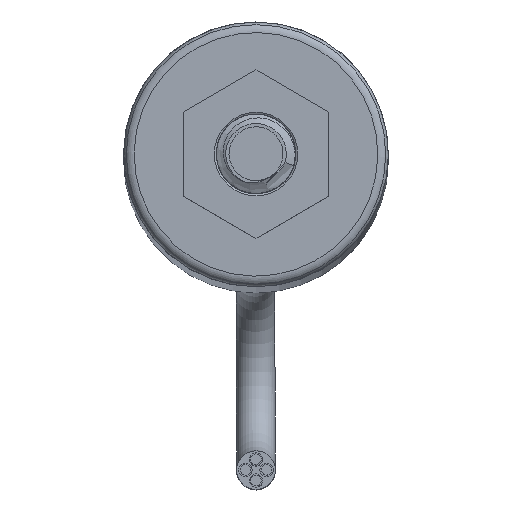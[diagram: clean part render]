
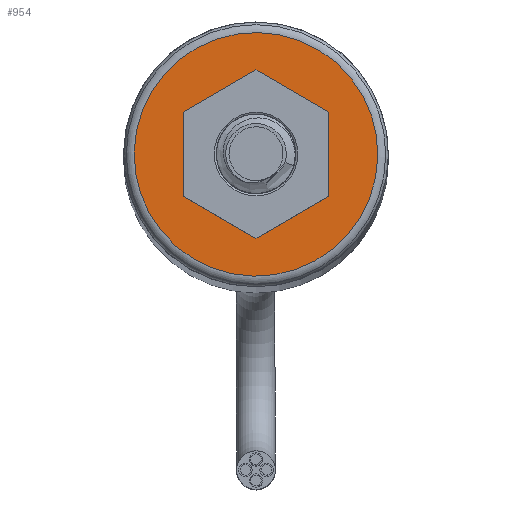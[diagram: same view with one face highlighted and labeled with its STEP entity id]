
A CAD part, top view. The second image highlights one B-rep face of the part: STEP entity #954.
In plain terms, the highlighted planar face has unit normal (0, 0, 1).
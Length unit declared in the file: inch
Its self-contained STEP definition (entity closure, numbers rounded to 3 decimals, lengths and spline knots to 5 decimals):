
#69=FACE_BOUND('',#190,.T.);
#87=PLANE('',#1193);
#123=FACE_OUTER_BOUND('',#189,.T.);
#189=EDGE_LOOP('',(#642));
#190=EDGE_LOOP('',(#643));
#367=CIRCLE('',#1188,0.23);
#371=CIRCLE('',#1194,0.11);
#424=VERTEX_POINT('',#1625);
#427=VERTEX_POINT('',#1635);
#506=EDGE_CURVE('',#424,#424,#367,.T.);
#511=EDGE_CURVE('',#427,#427,#371,.T.);
#642=ORIENTED_EDGE('',*,*,#506,.F.);
#643=ORIENTED_EDGE('',*,*,#511,.T.);
#954=ADVANCED_FACE('',(#123,#69),#87,.T.);
#1188=AXIS2_PLACEMENT_3D('',#1626,#1328,#1329);
#1193=AXIS2_PLACEMENT_3D('',#1634,#1339,#1340);
#1194=AXIS2_PLACEMENT_3D('',#1636,#1341,#1342);
#1328=DIRECTION('center_axis',(0.,0.,
-1.));
#1329=DIRECTION('ref_axis',(-0.753,0.658,0.));
#1339=DIRECTION('center_axis',(0.,0.,
1.));
#1340=DIRECTION('ref_axis',(0.753,-0.658,0.));
#1341=DIRECTION('center_axis',(0.,0.,
-1.));
#1342=DIRECTION('ref_axis',(0.753,-0.658,0.));
#1625=CARTESIAN_POINT('',(-0.17328,0.15124,0.03));
#1626=CARTESIAN_POINT('Origin',(0.,0.,
0.03));
#1634=CARTESIAN_POINT('Origin',(0.,0.,
0.03));
#1635=CARTESIAN_POINT('',(-0.08288,0.07233,0.03));
#1636=CARTESIAN_POINT('Origin',(0.,0.,
0.03));
